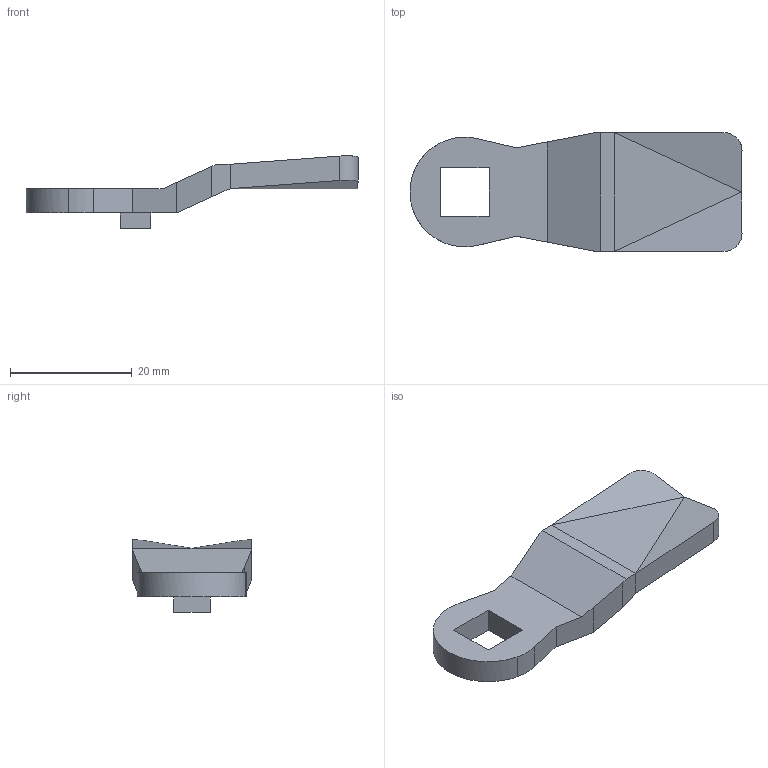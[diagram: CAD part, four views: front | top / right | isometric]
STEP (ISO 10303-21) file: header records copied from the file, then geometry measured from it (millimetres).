
FILE_DESCRIPTION (( 'STEP AP214' ), '1' );
FILE_NAME ('1.4043 Salpa +4.STEP', '2025-08-06T10:13:57', ( '' ), ( '' ), 'SwSTEP 2.0', 'SolidWorks 2025', '' );
FILE_SCHEMA (( 'AUTOMOTIVE_DESIGN' ));
Length unit declared in the file: millimetre
Products named in the file (1): 1.4043 Salpa +4
Bounding box: 54.5 x 19.5 x 11.89 mm (x, y, z)
Volume: 3791.3 mm3; surface area: 2564 mm2
Topology: 1 solids, 1 shells, 35 faces, 84 edges, 52 vertices
Faces by surface type: plane 31, cylinder 4
Entity records: 1185 total; most frequent: CARTESIAN_POINT 516, ORIENTED_EDGE 168, EDGE_CURVE 84, B_SPLINE_CURVE_WITH_KNOTS 84, DIRECTION 72, VERTEX_POINT 52, EDGE_LOOP 38, AXIS2_PLACEMENT_3D 36
